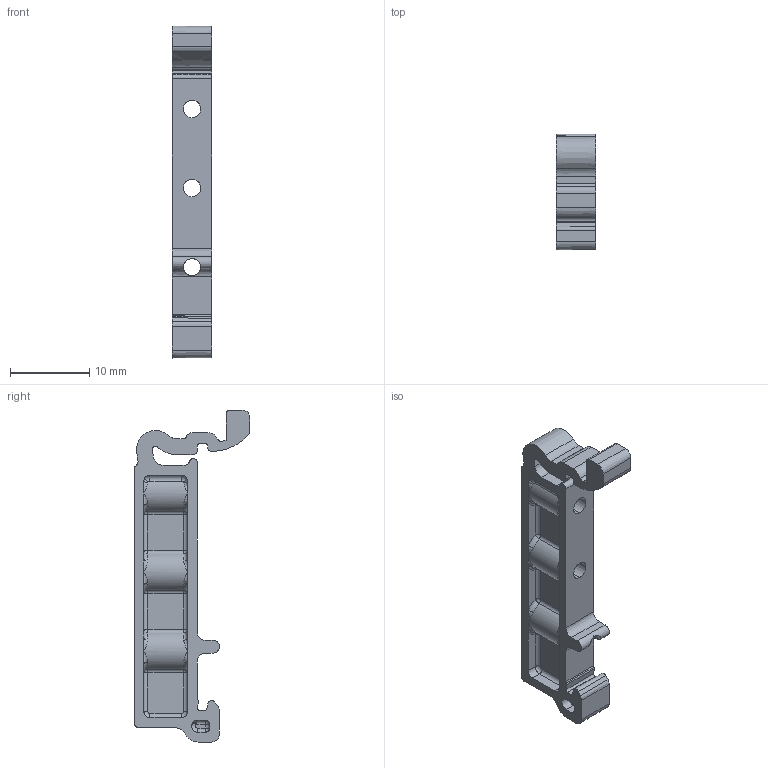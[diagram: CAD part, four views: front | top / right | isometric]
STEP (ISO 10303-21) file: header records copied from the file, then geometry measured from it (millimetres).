
FILE_DESCRIPTION (( 'STEP AP214' ), '1' );
FILE_NAME ('dinm05_rev_a.step', '2022-06-21T17:55:55', ( '' ), ( '' ), 'SwSTEP 2.0', 'SolidWorks 2018', '' );
FILE_SCHEMA (( 'AUTOMOTIVE_DESIGN' ));
Length unit declared in the file: millimetre
Products named in the file (1): dinm05_rev_a
Bounding box: 5 x 14.65 x 42 mm (x, y, z)
Volume: 1108.4 mm3; surface area: 1682.8 mm2
Topology: 1 solids, 1 shells, 347 faces, 895 edges, 538 vertices
Faces by surface type: plane 130, bspline 79, cone 60, cylinder 46, sphere 20, torus 12
Entity records: 12637 total; most frequent: CARTESIAN_POINT 4739, ORIENTED_EDGE 1740, DIRECTION 1520, EDGE_CURVE 870, VERTEX_POINT 538, AXIS2_PLACEMENT_3D 524, LINE 472, VECTOR 472
